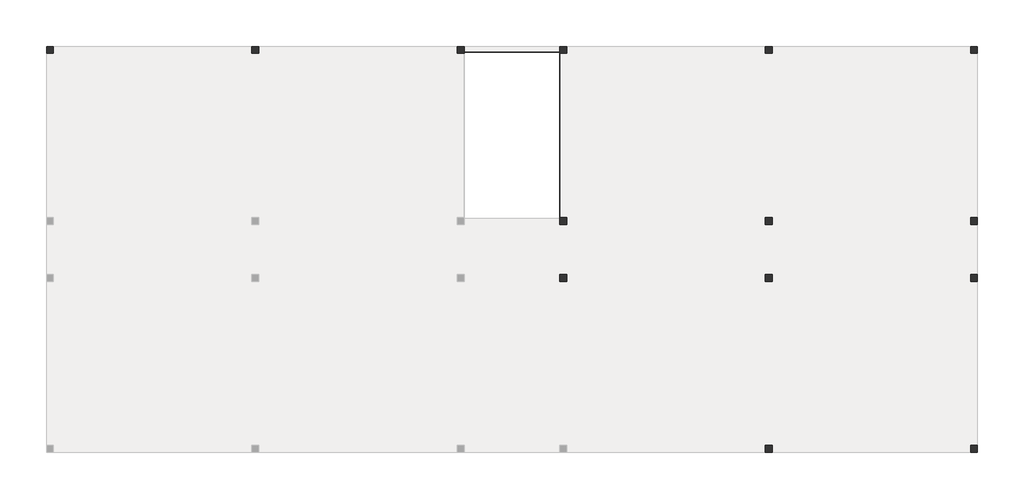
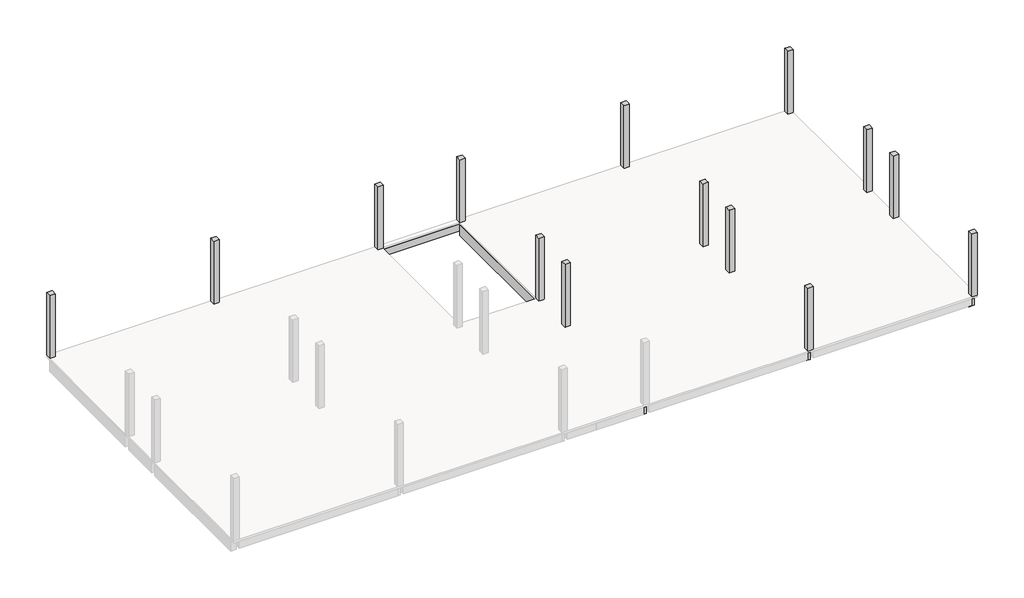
# One storey, part 2 of 2: 14 columns, 12 beams.
"""IFC4 building model written with IfcOpenShell, lengths in millimetres."""

from ifc_helpers import new_model, si_unit, frame, origin, place, context, project, spatial, polyline, outline, extrude, faceted_brep, element, save

model = new_model("IFC4")

# Units and contexts
model_context = context("Model", 3, world=origin())
ifc_project = project(units=[si_unit("LENGTHUNIT", "METRE", prefix="MILLI")], contexts=[model_context])

# Site, building, storey
site = spatial("IfcSite", under=ifc_project)
building = spatial("IfcBuilding", under=site)
storey = spatial("IfcBuildingStorey", under=building, Name="标高 3", Elevation=6000.0)

# Beams
placement = place(None, origin())
element("IfcBeam", 1, ObjectType="混凝土 - 矩形梁 : KL1", at=placement, inside=storey, context=model_context, shape_type="Brep", body=[
    faceted_brep([(1804.7953119, -564.7297059, 5400.0), (1804.7953119, 5195.2702941, 5400.0), (1804.7953119, 5195.2702941, 5920.0), (1804.7953119, 3415.2702941, 5920.0), (1804.7953119, 3215.2702941, 5920.0), (1804.7953119, 1415.2702941, 5920.0), (1804.7953119, 1215.2702941, 5920.0), (1804.7953119, -564.7297059, 5920.0), (1564.7953119, -564.7297059, 5400.0), (1564.7953119, 5195.2702941, 5400.0), (1564.7953119, -564.7297059, 5920.0), (1564.7953119, 5195.2702941, 5920.0)], [[[0, 1, 2, 3, 4, 5, 6, 7]], [[0, 8, 9, 1]], [[9, 8, 10, 11]], [[8, 0, 7, 10]], [[1, 9, 11, 2]], [[7, 6, 5, 4, 3, 2, 11, 10]]]),
    faceted_brep([(1564.7953119, -8564.7297059, 5400.0), (1804.7953119, -8564.7297059, 5400.0), (1804.7953119, -8564.7297059, 5920.0), (1564.7953119, -8564.7297059, 5920.0), (1804.7953119, -2804.7297059, 5400.0), (1564.7953119, -2804.7297059, 5400.0), (1564.7953119, -2804.7297059, 5920.0), (1804.7953119, -2804.7297059, 5920.0), (1804.7953119, -4584.7297059, 5920.0), (1804.7953119, -4784.7297059, 5920.0), (1804.7953119, -6584.7297059, 5920.0), (1804.7953119, -6784.7297059, 5920.0)], [[[0, 1, 2, 3]], [[4, 5, 6, 7]], [[1, 4, 7, 8, 9, 10, 11, 2]], [[1, 0, 5, 4]], [[5, 0, 3, 6]], [[3, 2, 11, 10, 9, 8, 7, 6]]]),
    faceted_brep([(1564.7953119, -2564.7297059, 5400.0), (1804.7953119, -2564.7297059, 5400.0), (1804.7953119, -2564.7297059, 5920.0), (1564.7953119, -2564.7297059, 5920.0), (1804.7953119, -804.7297059, 5400.0), (1564.7953119, -804.7297059, 5400.0), (1564.7953119, -804.7297059, 5920.0), (1804.7953119, -804.7297059, 5920.0)], [[[0, 1, 2, 3]], [[4, 5, 6, 7]], [[1, 0, 5, 4]], [[1, 4, 7, 2]], [[5, 0, 3, 6]], [[3, 2, 7, 6]]]),
])
element("IfcBeam", 2, ObjectType="混凝土 - 矩形梁 : KL1", at=placement, inside=storey, context=model_context, shape_type="Brep", body=[
    faceted_brep([(9004.7953119, -564.7297059, 5400.0), (9004.7953119, 5195.2702941, 5400.0), (9004.7953119, 5195.2702941, 5920.0), (9004.7953119, 3415.2702941, 5920.0), (9004.7953119, 3215.2702941, 5920.0), (9004.7953119, 1415.2702941, 5920.0), (9004.7953119, 1215.2702941, 5920.0), (9004.7953119, -564.7297059, 5920.0), (8764.7953119, -564.7297059, 5400.0), (8764.7953119, 5195.2702941, 5400.0), (8764.7953119, -564.7297059, 5920.0), (8764.7953119, 1215.2702941, 5920.0), (8764.7953119, 1415.2702941, 5920.0), (8764.7953119, 3215.2702941, 5920.0), (8764.7953119, 3415.2702941, 5920.0), (8764.7953119, 5195.2702941, 5920.0)], [[[0, 1, 2, 3, 4, 5, 6, 7]], [[0, 8, 9, 1]], [[9, 8, 10, 11, 12, 13, 14, 15]], [[8, 0, 7, 10]], [[1, 9, 15, 2]], [[7, 6, 5, 4, 3, 2, 15, 14, 13, 12, 11, 10]]]),
    faceted_brep([(8764.7953119, -8564.7297059, 5400.0), (9004.7953119, -8564.7297059, 5400.0), (9004.7953119, -8564.7297059, 5920.0), (8764.7953119, -8564.7297059, 5920.0), (9004.7953119, -2804.7297059, 5400.0), (8764.7953119, -2804.7297059, 5400.0), (8764.7953119, -2804.7297059, 5920.0), (9004.7953119, -2804.7297059, 5920.0), (9004.7953119, -4584.7297059, 5920.0), (9004.7953119, -4784.7297059, 5920.0), (9004.7953119, -6584.7297059, 5920.0), (9004.7953119, -6784.7297059, 5920.0), (8764.7953119, -6784.7297059, 5920.0), (8764.7953119, -6584.7297059, 5920.0), (8764.7953119, -4784.7297059, 5920.0), (8764.7953119, -4584.7297059, 5920.0)], [[[0, 1, 2, 3]], [[4, 5, 6, 7]], [[1, 4, 7, 8, 9, 10, 11, 2]], [[1, 0, 5, 4]], [[5, 0, 3, 12, 13, 14, 15, 6]], [[3, 2, 11, 10, 9, 8, 7, 6, 15, 14, 13, 12]]]),
    faceted_brep([(8764.7953119, -2564.7297059, 5400.0), (9004.7953119, -2564.7297059, 5400.0), (9004.7953119, -2564.7297059, 5920.0), (8764.7953119, -2564.7297059, 5920.0), (9004.7953119, -804.7297059, 5400.0), (8764.7953119, -804.7297059, 5400.0), (8764.7953119, -804.7297059, 5920.0), (9004.7953119, -804.7297059, 5920.0)], [[[0, 1, 2, 3]], [[4, 5, 6, 7]], [[1, 0, 5, 4]], [[1, 4, 7, 2]], [[5, 0, 3, 6]], [[3, 2, 7, 6]]]),
])
element("IfcBeam", 3, ObjectType="混凝土 - 矩形梁 : KL1", at=placement, inside=storey, context=model_context, shape_type="Brep", body=[
    faceted_brep([(16204.7953119, -564.7297059, 5400.0), (16204.7953119, 5195.2702941, 5400.0), (16204.7953119, 5195.2702941, 5920.0), (16204.7953119, -564.7297059, 5920.0), (15964.7953119, -564.7297059, 5400.0), (15964.7953119, 5195.2702941, 5400.0), (15964.7953119, -564.7297059, 5920.0), (15964.7953119, 1215.2702941, 5920.0), (15964.7953119, 1415.2702941, 5920.0), (15964.7953119, 3215.2702941, 5920.0), (15964.7953119, 3415.2702941, 5920.0), (15964.7953119, 5195.2702941, 5920.0)], [[[0, 1, 2, 3]], [[0, 4, 5, 1]], [[5, 4, 6, 7, 8, 9, 10, 11]], [[4, 0, 3, 6]], [[1, 5, 11, 2]], [[3, 2, 11, 10, 9, 8, 7, 6]]]),
    faceted_brep([(15964.7953119, -8564.7297059, 5400.0), (16204.7953119, -8564.7297059, 5400.0), (16204.7953119, -8564.7297059, 5920.0), (15964.7953119, -8564.7297059, 5920.0), (16204.7953119, -2804.7297059, 5400.0), (15964.7953119, -2804.7297059, 5400.0), (15964.7953119, -2804.7297059, 5920.0), (16204.7953119, -2804.7297059, 5920.0), (15964.7953119, -6784.7297059, 5920.0), (15964.7953119, -6584.7297059, 5920.0), (15964.7953119, -4784.7297059, 5920.0), (15964.7953119, -4584.7297059, 5920.0)], [[[0, 1, 2, 3]], [[4, 5, 6, 7]], [[1, 4, 7, 2]], [[1, 0, 5, 4]], [[5, 0, 3, 8, 9, 10, 11, 6]], [[3, 2, 7, 6, 11, 10, 9, 8]]]),
    faceted_brep([(15964.7953119, -2564.7297059, 5400.0), (16204.7953119, -2564.7297059, 5400.0), (16204.7953119, -2564.7297059, 5920.0), (15964.7953119, -2564.7297059, 5920.0), (16204.7953119, -804.7297059, 5400.0), (15964.7953119, -804.7297059, 5400.0), (15964.7953119, -804.7297059, 5920.0), (16204.7953119, -804.7297059, 5920.0)], [[[0, 1, 2, 3]], [[4, 5, 6, 7]], [[1, 0, 5, 4]], [[1, 4, 7, 2]], [[5, 0, 3, 6]], [[3, 2, 7, 6]]]),
])
element("IfcBeam", 4, ObjectType="混凝土 - 矩形梁 : KL2", at=placement, inside=storey, context=model_context, shape_type="SweptSolid", body=[
    extrude(outline(polyline([(9004.7953119, 5235.2702941), (9004.7953119, 5435.2702941), (15964.7953119, 5435.2702941), (15964.7953119, 5235.2702941), (9004.7953119, 5235.2702941)])), frame((0.0, 0.0, 5600.0), z_axis=(0.0, 0.0, 1.0), x_axis=(1.0, 0.0, 0.0)), (0.0, 0.0, 1.0), 320.0),
    extrude(outline(polyline([(-16195.2046881, 5235.2702941), (-16195.2046881, 5435.2702941), (-9235.2046881, 5435.2702941), (-9235.2046881, 5235.2702941), (-16195.2046881, 5235.2702941)])), frame((0.0, 0.0, 5600.0), z_axis=(0.0, 0.0, 1.0), x_axis=(1.0, 0.0, 0.0)), (0.0, 0.0, 1.0), 320.0),
    extrude(outline(polyline([(-8995.2046881, 5235.2702941), (-8995.2046881, 5435.2702941), (-2035.2046881, 5435.2702941), (-2035.2046881, 5235.2702941), (-8995.2046881, 5235.2702941)])), frame((0.0, 0.0, 5600.0), z_axis=(0.0, 0.0, 1.0), x_axis=(1.0, 0.0, 0.0)), (0.0, 0.0, 1.0), 320.0),
    extrude(outline(polyline([(-1795.2046881, 5235.2702941), (-1795.2046881, 5435.2702941), (1564.7953119, 5435.2702941), (1564.7953119, 5235.2702941), (-1795.2046881, 5235.2702941)])), frame((0.0, 0.0, 5600.0), z_axis=(0.0, 0.0, 1.0), x_axis=(1.0, 0.0, 0.0)), (0.0, 0.0, 1.0), 320.0),
    extrude(outline(polyline([(1804.7953119, 5235.2702941), (1804.7953119, 5435.2702941), (8764.7953119, 5435.2702941), (8764.7953119, 5235.2702941), (1804.7953119, 5235.2702941)])), frame((0.0, 0.0, 5600.0), z_axis=(0.0, 0.0, 1.0), x_axis=(1.0, 0.0, 0.0)), (0.0, 0.0, 1.0), 320.0),
])
element("IfcBeam", 5, ObjectType="混凝土 - 矩形梁 : KL2", at=placement, inside=storey, context=model_context, shape_type="SweptSolid", body=[
    extrude(outline(polyline([(1804.7953119, 3215.2702941), (1804.7953119, 3415.2702941), (8764.7953119, 3415.2702941), (8764.7953119, 3215.2702941), (1804.7953119, 3215.2702941)])), frame((0.0, 0.0, 5600.0), z_axis=(0.0, 0.0, 1.0), x_axis=(1.0, 0.0, 0.0)), (0.0, 0.0, 1.0), 320.0),
    extrude(outline(polyline([(9004.7953119, 3215.2702941), (9004.7953119, 3415.2702941), (15964.7953119, 3415.2702941), (15964.7953119, 3215.2702941), (9004.7953119, 3215.2702941)])), frame((0.0, 0.0, 5600.0), z_axis=(0.0, 0.0, 1.0), x_axis=(1.0, 0.0, 0.0)), (0.0, 0.0, 1.0), 320.0),
])
element("IfcBeam", 6, ObjectType="混凝土 - 矩形梁 : KL2", at=placement, inside=storey, context=model_context, shape_type="SweptSolid", body=[
    extrude(outline(polyline([(1804.7953119, 1215.2702941), (1804.7953119, 1415.2702941), (8764.7953119, 1415.2702941), (8764.7953119, 1215.2702941), (1804.7953119, 1215.2702941)])), frame((0.0, 0.0, 5600.0), z_axis=(0.0, 0.0, 1.0), x_axis=(1.0, 0.0, 0.0)), (0.0, 0.0, 1.0), 320.0),
    extrude(outline(polyline([(9004.7953119, 1215.2702941), (9004.7953119, 1415.2702941), (15964.7953119, 1415.2702941), (15964.7953119, 1215.2702941), (9004.7953119, 1215.2702941)])), frame((0.0, 0.0, 5600.0), z_axis=(0.0, 0.0, 1.0), x_axis=(1.0, 0.0, 0.0)), (0.0, 0.0, 1.0), 320.0),
])
element("IfcBeam", 7, ObjectType="混凝土 - 矩形梁 : KL2", at=placement, inside=storey, context=model_context, shape_type="SweptSolid", body=[
    extrude(outline(polyline([(1804.7953119, -4784.7297059), (1804.7953119, -4584.7297059), (8764.7953119, -4584.7297059), (8764.7953119, -4784.7297059), (1804.7953119, -4784.7297059)])), frame((0.0, 0.0, 5600.0), z_axis=(0.0, 0.0, 1.0), x_axis=(1.0, 0.0, 0.0)), (0.0, 0.0, 1.0), 320.0),
    extrude(outline(polyline([(9004.7953119, -4784.7297059), (9004.7953119, -4584.7297059), (15964.7953119, -4584.7297059), (15964.7953119, -4784.7297059), (9004.7953119, -4784.7297059)])), frame((0.0, 0.0, 5600.0), z_axis=(0.0, 0.0, 1.0), x_axis=(1.0, 0.0, 0.0)), (0.0, 0.0, 1.0), 320.0),
])
element("IfcBeam", 8, ObjectType="混凝土 - 矩形梁 : KL2", at=placement, inside=storey, context=model_context, shape_type="SweptSolid", body=[
    extrude(outline(polyline([(1804.7953119, -6784.7297059), (1804.7953119, -6584.7297059), (8764.7953119, -6584.7297059), (8764.7953119, -6784.7297059), (1804.7953119, -6784.7297059)])), frame((0.0, 0.0, 5600.0), z_axis=(0.0, 0.0, 1.0), x_axis=(1.0, 0.0, 0.0)), (0.0, 0.0, 1.0), 320.0),
    extrude(outline(polyline([(9004.7953119, -6784.7297059), (9004.7953119, -6584.7297059), (15964.7953119, -6584.7297059), (15964.7953119, -6784.7297059), (9004.7953119, -6784.7297059)])), frame((0.0, 0.0, 5600.0), z_axis=(0.0, 0.0, 1.0), x_axis=(1.0, 0.0, 0.0)), (0.0, 0.0, 1.0), 320.0),
])
element("IfcBeam", 9, ObjectType="混凝土 - 矩形梁 : KL2", at=placement, inside=storey, context=model_context, shape_type="SweptSolid", body=[
    extrude(outline(polyline([(-16195.2046881, 1215.2702941), (-16195.2046881, 1415.2702941), (-9235.2046881, 1415.2702941), (-9235.2046881, 1215.2702941), (-16195.2046881, 1215.2702941)])), frame((0.0, 0.0, 5600.0), z_axis=(0.0, 0.0, 1.0), x_axis=(1.0, 0.0, 0.0)), (0.0, 0.0, 1.0), 320.0),
    extrude(outline(polyline([(-8995.2046881, 1215.2702941), (-8995.2046881, 1415.2702941), (-2035.2046881, 1415.2702941), (-2035.2046881, 1215.2702941), (-8995.2046881, 1215.2702941)])), frame((0.0, 0.0, 5600.0), z_axis=(0.0, 0.0, 1.0), x_axis=(1.0, 0.0, 0.0)), (0.0, 0.0, 1.0), 320.0),
])
element("IfcBeam", 10, ObjectType="混凝土 - 矩形梁 : KL2", at=placement, inside=storey, context=model_context, shape_type="SweptSolid", body=[
    extrude(outline(polyline([(9004.7953119, -2784.7297059), (9004.7953119, -2584.7297059), (15964.7953119, -2584.7297059), (15964.7953119, -2784.7297059), (9004.7953119, -2784.7297059)])), frame((0.0, 0.0, 5600.0), z_axis=(0.0, 0.0, 1.0), x_axis=(1.0, 0.0, 0.0)), (0.0, 0.0, 1.0), 320.0),
    extrude(outline(polyline([(1804.7953119, -2784.7297059), (1804.7953119, -2584.7297059), (8764.7953119, -2584.7297059), (8764.7953119, -2784.7297059), (1804.7953119, -2784.7297059)])), frame((0.0, 0.0, 5600.0), z_axis=(0.0, 0.0, 1.0), x_axis=(1.0, 0.0, 0.0)), (0.0, 0.0, 1.0), 320.0),
])
element("IfcBeam", 11, ObjectType="混凝土 - 矩形梁 : KL2", at=placement, inside=storey, context=model_context, shape_type="SweptSolid", body=[
    extrude(outline(polyline([(9004.7953119, -784.7297059), (9004.7953119, -584.7297059), (15964.7953119, -584.7297059), (15964.7953119, -784.7297059), (9004.7953119, -784.7297059)])), frame((0.0, 0.0, 5600.0), z_axis=(0.0, 0.0, 1.0), x_axis=(1.0, 0.0, 0.0)), (0.0, 0.0, 1.0), 320.0),
    extrude(outline(polyline([(1804.7953119, -784.7297059), (1804.7953119, -584.7297059), (8764.7953119, -584.7297059), (8764.7953119, -784.7297059), (1804.7953119, -784.7297059)])), frame((0.0, 0.0, 5600.0), z_axis=(0.0, 0.0, 1.0), x_axis=(1.0, 0.0, 0.0)), (0.0, 0.0, 1.0), 320.0),
])
element("IfcBeam", 12, ObjectType="混凝土 - 矩形梁 : KL2", at=placement, inside=storey, context=model_context, shape_type="SweptSolid", body=[
    extrude(outline(polyline([(-16195.2046881, 3215.2702941), (-16195.2046881, 3415.2702941), (-9235.2046881, 3415.2702941), (-9235.2046881, 3215.2702941), (-16195.2046881, 3215.2702941)])), frame((0.0, 0.0, 5600.0), z_axis=(0.0, 0.0, 1.0), x_axis=(1.0, 0.0, 0.0)), (0.0, 0.0, 1.0), 320.0),
    extrude(outline(polyline([(-8995.2046881, 3215.2702941), (-8995.2046881, 3415.2702941), (-2035.2046881, 3415.2702941), (-2035.2046881, 3215.2702941), (-8995.2046881, 3215.2702941)])), frame((0.0, 0.0, 5600.0), z_axis=(0.0, 0.0, 1.0), x_axis=(1.0, 0.0, 0.0)), (0.0, 0.0, 1.0), 320.0),
])

# Columns
element("IfcColumn", 13, ObjectType="混凝土 - 矩形 - 柱 : KZ", at=placement, inside=storey, context=model_context, shape_type="SweptSolid", body=[
    extrude(outline(polyline([(-16195.2046881, 5435.2702941), (-16195.2046881, 5195.2702941), (-16435.2046881, 5195.2702941), (-16435.2046881, 5435.2702941), (-16195.2046881, 5435.2702941)])), frame((0.0, 0.0, 6000.0), z_axis=(0.0, 0.0, 1.0), x_axis=(1.0, 0.0, 0.0)), (0.0, 0.0, 1.0), 2920.0),
])
element("IfcColumn", 14, ObjectType="混凝土 - 矩形 - 柱 : KZ", at=placement, inside=storey, context=model_context, shape_type="Brep", body=[
    faceted_brep([(-8995.2046881, 5435.2702941, 6000.0), (-8995.2046881, 5195.2702941, 6000.0), (-9235.2046881, 5195.2702941, 6000.0), (-9235.2046881, 5435.2702941, 6000.0), (-8995.2046881, 5435.2702941, 8600.0), (-8995.2046881, 5435.2702941, 8920.0), (-8995.2046881, 5235.2702941, 8920.0), (-8995.2046881, 5195.2702941, 8920.0), (-9235.2046881, 5195.2702941, 8920.0), (-9235.2046881, 5235.2702941, 8920.0), (-9235.2046881, 5435.2702941, 8920.0), (-9235.2046881, 5435.2702941, 8600.0)], [[[0, 1, 2, 3]], [[1, 0, 4, 5, 6, 7]], [[2, 1, 7, 8]], [[3, 2, 8, 9, 10, 11]], [[0, 3, 11, 10, 5, 4]], [[7, 6, 5, 10, 9, 8]]]),
])
element("IfcColumn", 15, ObjectType="混凝土 - 矩形 - 柱 : KZ", at=placement, inside=storey, context=model_context, shape_type="Brep", body=[
    faceted_brep([(-1795.2046881, 5435.2702941, 6000.0), (-1795.2046881, 5235.2702941, 6000.0), (-1795.2046881, 5195.2702941, 6000.0), (-2035.2046881, 5195.2702941, 6000.0), (-2035.2046881, 5435.2702941, 6000.0), (-1795.2046881, 5435.2702941, 8600.0), (-1795.2046881, 5435.2702941, 8920.0), (-1795.2046881, 5235.2702941, 8920.0), (-1795.2046881, 5195.2702941, 8920.0), (-2035.2046881, 5195.2702941, 8920.0), (-2035.2046881, 5235.2702941, 8920.0), (-2035.2046881, 5435.2702941, 8920.0), (-2035.2046881, 5435.2702941, 8600.0)], [[[0, 1, 2, 3, 4]], [[2, 1, 0, 5, 6, 7, 8]], [[3, 2, 8, 9]], [[4, 3, 9, 10, 11, 12]], [[0, 4, 12, 11, 6, 5]], [[8, 7, 6, 11, 10, 9]]]),
])
element("IfcColumn", 16, ObjectType="混凝土 - 矩形 - 柱 : KZ", at=placement, inside=storey, context=model_context, shape_type="Brep", body=[
    faceted_brep([(1804.7953119, -2564.7297059, 6000.0), (1804.7953119, -2804.7297059, 6000.0), (1564.7953119, -2804.7297059, 6000.0), (1564.7953119, -2564.7297059, 6000.0), (1804.7953119, -2564.7297059, 8400.0), (1804.7953119, -2564.7297059, 8920.0), (1804.7953119, -2804.7297059, 8920.0), (1804.7953119, -2804.7297059, 8400.0), (1564.7953119, -2804.7297059, 8920.0), (1564.7953119, -2804.7297059, 8400.0), (1564.7953119, -2564.7297059, 8920.0), (1564.7953119, -2564.7297059, 8400.0)], [[[0, 1, 2, 3]], [[1, 0, 4, 5, 6, 7]], [[2, 1, 7, 6, 8, 9]], [[3, 2, 9, 8, 10, 11]], [[0, 3, 11, 10, 5, 4]], [[6, 5, 10, 8]]]),
])
element("IfcColumn", 17, ObjectType="混凝土 - 矩形 - 柱 : KZ", at=placement, inside=storey, context=model_context, shape_type="Brep", body=[
    faceted_brep([(1804.7953119, -564.7297059, 6000.0), (1804.7953119, -804.7297059, 6000.0), (1564.7953119, -804.7297059, 6000.0), (1564.7953119, -584.7297059, 6000.0), (1564.7953119, -564.7297059, 6000.0), (1804.7953119, -564.7297059, 8400.0), (1804.7953119, -564.7297059, 8920.0), (1804.7953119, -804.7297059, 8920.0), (1804.7953119, -804.7297059, 8400.0), (1564.7953119, -804.7297059, 8920.0), (1564.7953119, -804.7297059, 8400.0), (1564.7953119, -564.7297059, 8920.0), (1564.7953119, -564.7297059, 8400.0)], [[[0, 1, 2, 3, 4]], [[1, 0, 5, 6, 7, 8]], [[2, 1, 8, 7, 9, 10]], [[4, 3, 2, 10, 9, 11, 12]], [[0, 4, 12, 11, 6, 5]], [[7, 6, 11, 9]]]),
])
element("IfcColumn", 18, ObjectType="混凝土 - 矩形 - 柱 : KZ", at=placement, inside=storey, context=model_context, shape_type="Brep", body=[
    faceted_brep([(1804.7953119, 5435.2702941, 6000.0), (1804.7953119, 5195.2702941, 6000.0), (1564.7953119, 5195.2702941, 6000.0), (1564.7953119, 5235.2702941, 6000.0), (1564.7953119, 5435.2702941, 6000.0), (1804.7953119, 5435.2702941, 8600.0), (1804.7953119, 5435.2702941, 8920.0), (1804.7953119, 5235.2702941, 8920.0), (1804.7953119, 5195.2702941, 8920.0), (1564.7953119, 5195.2702941, 8920.0), (1564.7953119, 5235.2702941, 8920.0), (1564.7953119, 5435.2702941, 8920.0), (1564.7953119, 5435.2702941, 8600.0)], [[[0, 1, 2, 3, 4]], [[1, 0, 5, 6, 7, 8]], [[2, 1, 8, 9]], [[4, 3, 2, 9, 10, 11, 12]], [[0, 4, 12, 11, 6, 5]], [[8, 7, 6, 11, 10, 9]]]),
])
element("IfcColumn", 19, ObjectType="混凝土 - 矩形 - 柱 : KZ", at=placement, inside=storey, context=model_context, shape_type="Brep", body=[
    faceted_brep([(9004.7953119, -8564.7297059, 6000.0), (9004.7953119, -8804.7297059, 6000.0), (8764.7953119, -8804.7297059, 6000.0), (8764.7953119, -8564.7297059, 6000.0), (9004.7953119, -8564.7297059, 8920.0), (9004.7953119, -8604.7297059, 8920.0), (9004.7953119, -8804.7297059, 8920.0), (9004.7953119, -8804.7297059, 8600.0), (8764.7953119, -8804.7297059, 8920.0), (8764.7953119, -8804.7297059, 8600.0), (8764.7953119, -8604.7297059, 8920.0), (8764.7953119, -8564.7297059, 8920.0)], [[[0, 1, 2, 3]], [[1, 0, 4, 5, 6, 7]], [[2, 1, 7, 6, 8, 9]], [[3, 2, 9, 8, 10, 11]], [[0, 3, 11, 4]], [[6, 5, 4, 11, 10, 8]]]),
])
element("IfcColumn", 20, ObjectType="混凝土 - 矩形 - 柱 : KZ", at=placement, inside=storey, context=model_context, shape_type="Brep", body=[
    faceted_brep([(9004.7953119, -2564.7297059, 6000.0), (9004.7953119, -2804.7297059, 6000.0), (8764.7953119, -2804.7297059, 6000.0), (8764.7953119, -2564.7297059, 6000.0), (9004.7953119, -2564.7297059, 8400.0), (9004.7953119, -2564.7297059, 8920.0), (9004.7953119, -2584.7297059, 8920.0), (9004.7953119, -2784.7297059, 8920.0), (9004.7953119, -2804.7297059, 8920.0), (9004.7953119, -2804.7297059, 8400.0), (8764.7953119, -2804.7297059, 8920.0), (8764.7953119, -2804.7297059, 8400.0), (8764.7953119, -2784.7297059, 8920.0), (8764.7953119, -2584.7297059, 8920.0), (8764.7953119, -2564.7297059, 8920.0), (8764.7953119, -2564.7297059, 8400.0)], [[[0, 1, 2, 3]], [[1, 0, 4, 5, 6, 7, 8, 9]], [[2, 1, 9, 8, 10, 11]], [[3, 2, 11, 10, 12, 13, 14, 15]], [[0, 3, 15, 14, 5, 4]], [[8, 7, 6, 5, 14, 13, 12, 10]]]),
])
element("IfcColumn", 21, ObjectType="混凝土 - 矩形 - 柱 : KZ", at=placement, inside=storey, context=model_context, shape_type="Brep", body=[
    faceted_brep([(9004.7953119, -564.7297059, 6000.0), (9004.7953119, -804.7297059, 6000.0), (8764.7953119, -804.7297059, 6000.0), (8764.7953119, -564.7297059, 6000.0), (9004.7953119, -564.7297059, 8400.0), (9004.7953119, -564.7297059, 8920.0), (9004.7953119, -584.7297059, 8920.0), (9004.7953119, -784.7297059, 8920.0), (9004.7953119, -804.7297059, 8920.0), (9004.7953119, -804.7297059, 8400.0), (8764.7953119, -804.7297059, 8920.0), (8764.7953119, -804.7297059, 8400.0), (8764.7953119, -784.7297059, 8920.0), (8764.7953119, -584.7297059, 8920.0), (8764.7953119, -564.7297059, 8920.0), (8764.7953119, -564.7297059, 8400.0)], [[[0, 1, 2, 3]], [[1, 0, 4, 5, 6, 7, 8, 9]], [[2, 1, 9, 8, 10, 11]], [[3, 2, 11, 10, 12, 13, 14, 15]], [[0, 3, 15, 14, 5, 4]], [[8, 7, 6, 5, 14, 13, 12, 10]]]),
])
element("IfcColumn", 22, ObjectType="混凝土 - 矩形 - 柱 : KZ", at=placement, inside=storey, context=model_context, shape_type="Brep", body=[
    faceted_brep([(9004.7953119, 5435.2702941, 6000.0), (9004.7953119, 5195.2702941, 6000.0), (8764.7953119, 5195.2702941, 6000.0), (8764.7953119, 5435.2702941, 6000.0), (9004.7953119, 5435.2702941, 8600.0), (9004.7953119, 5435.2702941, 8920.0), (9004.7953119, 5235.2702941, 8920.0), (9004.7953119, 5195.2702941, 8920.0), (8764.7953119, 5195.2702941, 8920.0), (8764.7953119, 5235.2702941, 8920.0), (8764.7953119, 5435.2702941, 8920.0), (8764.7953119, 5435.2702941, 8600.0)], [[[0, 1, 2, 3]], [[1, 0, 4, 5, 6, 7]], [[2, 1, 7, 8]], [[3, 2, 8, 9, 10, 11]], [[0, 3, 11, 10, 5, 4]], [[7, 6, 5, 10, 9, 8]]]),
])
element("IfcColumn", 23, ObjectType="混凝土 - 矩形 - 柱 : KZ", at=placement, inside=storey, context=model_context, shape_type="SweptSolid", body=[
    extrude(outline(polyline([(16204.7953119, -8564.7297059), (16204.7953119, -8804.7297059), (15964.7953119, -8804.7297059), (15964.7953119, -8564.7297059), (16204.7953119, -8564.7297059)])), frame((0.0, 0.0, 6000.0), z_axis=(0.0, 0.0, 1.0), x_axis=(1.0, 0.0, 0.0)), (0.0, 0.0, 1.0), 2920.0),
])
element("IfcColumn", 24, ObjectType="混凝土 - 矩形 - 柱 : KZ", at=placement, inside=storey, context=model_context, shape_type="Brep", body=[
    faceted_brep([(16204.7953119, -2564.7297059, 6000.0), (16204.7953119, -2804.7297059, 6000.0), (15964.7953119, -2804.7297059, 6000.0), (15964.7953119, -2564.7297059, 6000.0), (16204.7953119, -2564.7297059, 8400.0), (16204.7953119, -2564.7297059, 8920.0), (16204.7953119, -2804.7297059, 8920.0), (16204.7953119, -2804.7297059, 8400.0), (15964.7953119, -2804.7297059, 8920.0), (15964.7953119, -2804.7297059, 8400.0), (15964.7953119, -2564.7297059, 8920.0), (15964.7953119, -2564.7297059, 8400.0)], [[[0, 1, 2, 3]], [[1, 0, 4, 5, 6, 7]], [[2, 1, 7, 6, 8, 9]], [[3, 2, 9, 8, 10, 11]], [[0, 3, 11, 10, 5, 4]], [[6, 5, 10, 8]]]),
])
element("IfcColumn", 25, ObjectType="混凝土 - 矩形 - 柱 : KZ", at=placement, inside=storey, context=model_context, shape_type="Brep", body=[
    faceted_brep([(16204.7953119, -564.7297059, 6000.0), (16204.7953119, -804.7297059, 6000.0), (15964.7953119, -804.7297059, 6000.0), (15964.7953119, -564.7297059, 6000.0), (16204.7953119, -564.7297059, 8400.0), (16204.7953119, -564.7297059, 8920.0), (16204.7953119, -804.7297059, 8920.0), (16204.7953119, -804.7297059, 8400.0), (15964.7953119, -804.7297059, 8920.0), (15964.7953119, -804.7297059, 8400.0), (15964.7953119, -564.7297059, 8920.0), (15964.7953119, -564.7297059, 8400.0)], [[[0, 1, 2, 3]], [[1, 0, 4, 5, 6, 7]], [[2, 1, 7, 6, 8, 9]], [[3, 2, 9, 8, 10, 11]], [[0, 3, 11, 10, 5, 4]], [[6, 5, 10, 8]]]),
])
element("IfcColumn", 26, ObjectType="混凝土 - 矩形 - 柱 : KZ", at=placement, inside=storey, context=model_context, shape_type="SweptSolid", body=[
    extrude(outline(polyline([(16204.7953119, 5435.2702941), (16204.7953119, 5195.2702941), (15964.7953119, 5195.2702941), (15964.7953119, 5435.2702941), (16204.7953119, 5435.2702941)])), frame((0.0, 0.0, 6000.0), z_axis=(0.0, 0.0, 1.0), x_axis=(1.0, 0.0, 0.0)), (0.0, 0.0, 1.0), 2920.0),
])

save(model, "model.ifc")
